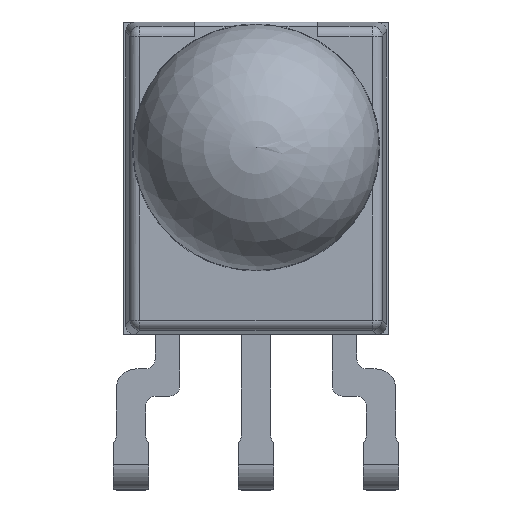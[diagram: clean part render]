
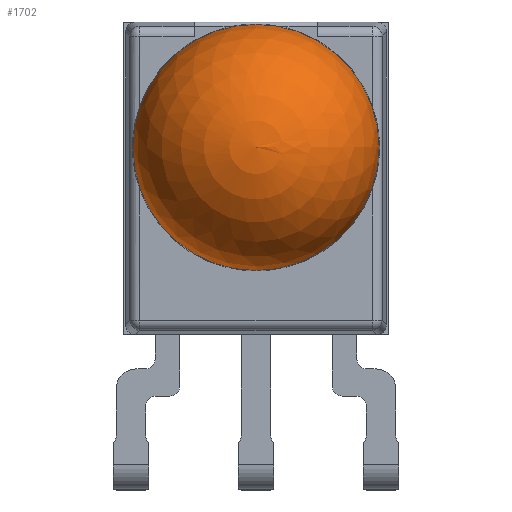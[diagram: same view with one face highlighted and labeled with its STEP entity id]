
A CAD part, top view. The second image highlights one B-rep face of the part: STEP entity #1702.
In plain terms, the highlighted spherical face has radius 2.5 mm.
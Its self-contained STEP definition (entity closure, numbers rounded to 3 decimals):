
#1682=CARTESIAN_POINT('',(2.498,0.0,1.337));
#1683=VERTEX_POINT('',#1682);
#1684=CARTESIAN_POINT('',(0.0,0.0,1.337));
#1685=DIRECTION('',(0.0,0.0,1.0));
#1686=DIRECTION('',(1.0,0.0,0.0));
#1687=AXIS2_PLACEMENT_3D('',#1684,#1685,#1686);
#1688=CIRCLE('',#1687,2.498);
#1689=EDGE_CURVE('',#1683,#1683,#1688,.T.);
#1694=CARTESIAN_POINT('',(0.0,0.0,1.25));
#1695=DIRECTION('',(0.0,0.0,1.0));
#1696=DIRECTION('',(1.0,0.0,0.0));
#1697=AXIS2_PLACEMENT_3D('',#1694,#1695,#1696);
#1698=SPHERICAL_SURFACE('',#1697,2.5);
#1699=ORIENTED_EDGE('',*,*,#1689,.T.);
#1700=EDGE_LOOP('',(#1699));
#1701=FACE_OUTER_BOUND('',#1700,.T.);
#1702=ADVANCED_FACE('',(#1701),#1698,.T.);
